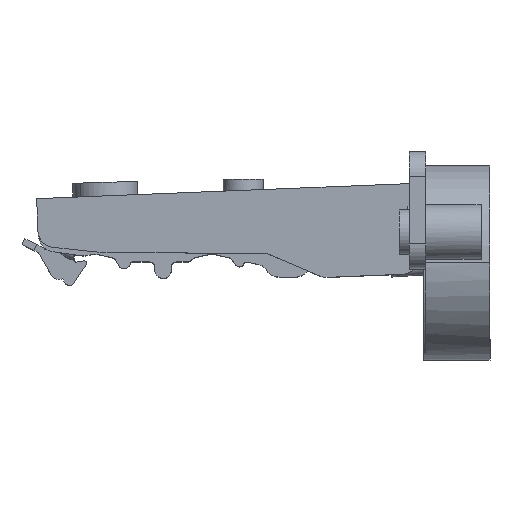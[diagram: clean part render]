
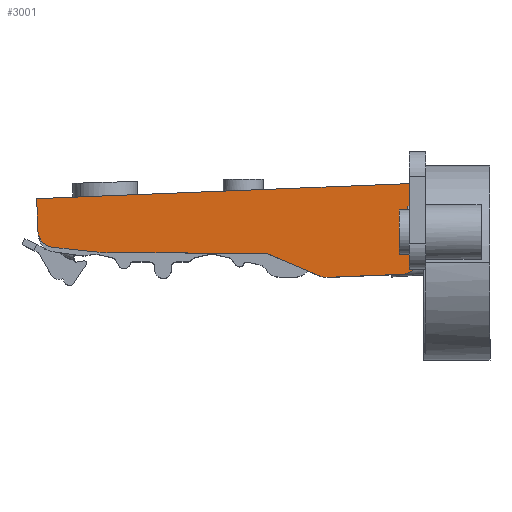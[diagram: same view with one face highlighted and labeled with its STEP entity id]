
A CAD part, top view. The second image highlights one B-rep face of the part: STEP entity #3001.
In plain terms, the highlighted planar face has unit normal (0, 0, 1).
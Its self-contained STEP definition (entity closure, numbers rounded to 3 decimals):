
#27 = CARTESIAN_POINT ( 'NONE',  ( -58.444, 9.997, 8.5 ) ) ;
#222 = VERTEX_POINT ( 'NONE', #422 ) ;
#241 = CIRCLE ( 'NONE', #431, 30. ) ;
#422 = CARTESIAN_POINT ( 'NONE',  ( -51.347, 6.21, 8.5 ) ) ;
#431 = AXIS2_PLACEMENT_3D ( 'NONE', #4415, #10731, #7881 ) ;
#697 = DIRECTION ( 'NONE',  ( -0.999, -0.04, 0. ) ) ;
#790 = EDGE_CURVE ( 'NONE', #7150, #1047, #6448, .T. ) ;
#829 = ORIENTED_EDGE ( 'NONE', *, *, #4334, .T. ) ;
#1047 = VERTEX_POINT ( 'NONE', #7990 ) ;
#1051 = DIRECTION ( 'NONE',  ( 0., 0., 1. ) ) ;
#1096 = CIRCLE ( 'NONE', #5874, 3.5 ) ;
#1225 = ORIENTED_EDGE ( 'NONE', *, *, #1889, .T. ) ;
#1250 = CARTESIAN_POINT ( 'NONE',  ( -20.265, 5.864, 8.5 ) ) ;
#1292 = DIRECTION ( 'NONE',  ( 1., 0., 0. ) ) ;
#1453 = LINE ( 'NONE', #8460, #11783 ) ;
#1484 = CARTESIAN_POINT ( 'NONE',  ( 3.733, 2.169, 8.5 ) ) ;
#1806 = EDGE_CURVE ( 'NONE', #5736, #9328, #1096, .T. ) ;
#1889 = EDGE_CURVE ( 'NONE', #2691, #3598, #3026, .T. ) ;
#1944 = EDGE_CURVE ( 'NONE', #3598, #222, #4849, .T. ) ;
#2073 = DIRECTION ( 'NONE',  ( 0.994, -0.108, 0. ) ) ;
#2083 = VERTEX_POINT ( 'NONE', #4127 ) ;
#2280 = ORIENTED_EDGE ( 'NONE', *, *, #11162, .T. ) ;
#2312 = CARTESIAN_POINT ( 'NONE',  ( -9.756, 4.626, 8.5 ) ) ;
#2320 = DIRECTION ( 'NONE',  ( 1., 0., 0. ) ) ;
#2325 = ORIENTED_EDGE ( 'NONE', *, *, #790, .F. ) ;
#2361 = DIRECTION ( 'NONE',  ( 1., 0., 0. ) ) ;
#2691 = VERTEX_POINT ( 'NONE', #9434 ) ;
#2999 = FACE_OUTER_BOUND ( 'NONE', #6856, .T. ) ;
#3001 = ADVANCED_FACE ( 'NONE', ( #2999 ), #9312, .T. ) ;
#3026 = CIRCLE ( 'NONE', #8732, 3. ) ;
#3070 = CARTESIAN_POINT ( 'NONE',  ( 5.993, 3.12, 8.5 ) ) ;
#3114 = EDGE_CURVE ( 'NONE', #3945, #2083, #10243, .T. ) ;
#3188 = LINE ( 'NONE', #8729, #10168 ) ;
#3598 = VERTEX_POINT ( 'NONE', #9764 ) ;
#3714 = LINE ( 'NONE', #9177, #5797 ) ;
#3823 = CARTESIAN_POINT ( 'NONE',  ( 5.081, 18.426, 8.5 ) ) ;
#3945 = VERTEX_POINT ( 'NONE', #6344 ) ;
#3958 = CARTESIAN_POINT ( 'NONE',  ( -58.768, 7.014, 8.5 ) ) ;
#4127 = CARTESIAN_POINT ( 'NONE',  ( -9.635, 1.629, 8.5 ) ) ;
#4155 = ORIENTED_EDGE ( 'NONE', *, *, #7481, .T. ) ;
#4334 = EDGE_CURVE ( 'NONE', #222, #9192, #241, .T. ) ;
#4409 = ORIENTED_EDGE ( 'NONE', *, *, #1806, .T. ) ;
#4415 = CARTESIAN_POINT ( 'NONE',  ( -48.113, 36.035, 8.5 ) ) ;
#4837 = ORIENTED_EDGE ( 'NONE', *, *, #10461, .T. ) ;
#4849 = LINE ( 'NONE', #3958, #9099 ) ;
#4866 = DIRECTION ( 'NONE',  ( 0.919, -0.394, 0. ) ) ;
#4910 = CARTESIAN_POINT ( 'NONE',  ( -61.678, 15.73, 8.5 ) ) ;
#5108 = AXIS2_PLACEMENT_3D ( 'NONE', #2312, #6876, #2361 ) ;
#5207 = CARTESIAN_POINT ( 'NONE',  ( 6.946, 18.502, 8.5 ) ) ;
#5595 = CARTESIAN_POINT ( 'NONE',  ( 5.081, 9.997, 8.5 ) ) ;
#5736 = VERTEX_POINT ( 'NONE', #1484 ) ;
#5797 = VECTOR ( 'NONE', #6452, 1000. ) ;
#5812 = LINE ( 'NONE', #1250, #7709 ) ;
#5874 = AXIS2_PLACEMENT_3D ( 'NONE', #6405, #1051, #9982 ) ;
#5990 = VECTOR ( 'NONE', #697, 1000. ) ;
#6223 = DIRECTION ( 'NONE',  ( 0., 0., -1. ) ) ;
#6317 = ORIENTED_EDGE ( 'NONE', *, *, #8652, .T. ) ;
#6344 = CARTESIAN_POINT ( 'NONE',  ( -10.937, 1.869, 8.5 ) ) ;
#6405 = CARTESIAN_POINT ( 'NONE',  ( 3.591, 5.666, 8.5 ) ) ;
#6448 = LINE ( 'NONE', #5595, #7675 ) ;
#6452 = DIRECTION ( 'NONE',  ( 0.04, -0.999, 0. ) ) ;
#6457 = DIRECTION ( 'NONE',  ( 0., 0., 1. ) ) ;
#6825 = VECTOR ( 'NONE', #7179, 1000. ) ;
#6830 = ORIENTED_EDGE ( 'NONE', *, *, #10127, .T. ) ;
#6856 = EDGE_LOOP ( 'NONE', ( #10089, #2325, #6317, #10086, #1225, #10024, #829, #6830, #4837, #4155, #11677, #2280, #4409 ) ) ;
#6876 = DIRECTION ( 'NONE',  ( 0., 0., 1. ) ) ;
#6899 = VERTEX_POINT ( 'NONE', #9983 ) ;
#7000 = CARTESIAN_POINT ( 'NONE',  ( -20.659, 4.945, 8.5 ) ) ;
#7150 = VERTEX_POINT ( 'NONE', #3823 ) ;
#7179 = DIRECTION ( 'NONE',  ( 1., -0.003, 0. ) ) ;
#7405 = DIRECTION ( 'NONE',  ( 1., 0., 0. ) ) ;
#7481 = EDGE_CURVE ( 'NONE', #10003, #3945, #5812, .T. ) ;
#7675 = VECTOR ( 'NONE', #10084, 1000. ) ;
#7709 = VECTOR ( 'NONE', #4866, 1000. ) ;
#7881 = DIRECTION ( 'NONE',  ( 1., 0., 0. ) ) ;
#7959 = LINE ( 'NONE', #9986, #6825 ) ;
#7990 = CARTESIAN_POINT ( 'NONE',  ( 5.081, 3.12, 8.5 ) ) ;
#8349 = CIRCLE ( 'NONE', #11595, 1. ) ;
#8460 = CARTESIAN_POINT ( 'NONE',  ( -9.635, 1.629, 8.5 ) ) ;
#8462 = EDGE_CURVE ( 'NONE', #1047, #9328, #3188, .T. ) ;
#8604 = CARTESIAN_POINT ( 'NONE',  ( -58.444, 9.997, 8.5 ) ) ;
#8622 = CARTESIAN_POINT ( 'NONE',  ( -20.265, 5.864, 8.5 ) ) ;
#8652 = EDGE_CURVE ( 'NONE', #7150, #10365, #10916, .T. ) ;
#8662 = DIRECTION ( 'NONE',  ( 0., 0., 1. ) ) ;
#8718 = EDGE_CURVE ( 'NONE', #10365, #2691, #3714, .T. ) ;
#8729 = CARTESIAN_POINT ( 'NONE',  ( -58.444, 3.12, 8.5 ) ) ;
#8732 = AXIS2_PLACEMENT_3D ( 'NONE', #8604, #8662, #1292 ) ;
#8913 = CARTESIAN_POINT ( 'NONE',  ( -48.211, 6.035, 8.5 ) ) ;
#9099 = VECTOR ( 'NONE', #2073, 1000. ) ;
#9177 = CARTESIAN_POINT ( 'NONE',  ( -61.642, 14.83, 8.5 ) ) ;
#9192 = VERTEX_POINT ( 'NONE', #8913 ) ;
#9312 = PLANE ( 'NONE',  #11777 ) ;
#9328 = VERTEX_POINT ( 'NONE', #3070 ) ;
#9434 = CARTESIAN_POINT ( 'NONE',  ( -61.442, 9.875, 8.5 ) ) ;
#9764 = CARTESIAN_POINT ( 'NONE',  ( -58.768, 7.014, 8.5 ) ) ;
#9982 = DIRECTION ( 'NONE',  ( 1., 0., 0. ) ) ;
#9983 = CARTESIAN_POINT ( 'NONE',  ( -20.656, 5.945, 8.5 ) ) ;
#9986 = CARTESIAN_POINT ( 'NONE',  ( -48.211, 6.035, 8.5 ) ) ;
#10003 = VERTEX_POINT ( 'NONE', #8622 ) ;
#10024 = ORIENTED_EDGE ( 'NONE', *, *, #1944, .T. ) ;
#10084 = DIRECTION ( 'NONE',  ( 0., -1., 0. ) ) ;
#10086 = ORIENTED_EDGE ( 'NONE', *, *, #8718, .T. ) ;
#10089 = ORIENTED_EDGE ( 'NONE', *, *, #8462, .F. ) ;
#10127 = EDGE_CURVE ( 'NONE', #9192, #6899, #7959, .T. ) ;
#10168 = VECTOR ( 'NONE', #2320, 1000. ) ;
#10243 = CIRCLE ( 'NONE', #5108, 3. ) ;
#10364 = DIRECTION ( 'NONE',  ( 0.999, 0.04, 0. ) ) ;
#10365 = VERTEX_POINT ( 'NONE', #4910 ) ;
#10461 = EDGE_CURVE ( 'NONE', #6899, #10003, #8349, .T. ) ;
#10617 = DIRECTION ( 'NONE',  ( 1., 0., 0. ) ) ;
#10731 = DIRECTION ( 'NONE',  ( 0., 0., 1. ) ) ;
#10916 = LINE ( 'NONE', #5207, #5990 ) ;
#11162 = EDGE_CURVE ( 'NONE', #2083, #5736, #1453, .T. ) ;
#11595 = AXIS2_PLACEMENT_3D ( 'NONE', #7000, #6223, #10617 ) ;
#11677 = ORIENTED_EDGE ( 'NONE', *, *, #3114, .T. ) ;
#11777 = AXIS2_PLACEMENT_3D ( 'NONE', #27, #6457, #7405 ) ;
#11783 = VECTOR ( 'NONE', #10364, 1000. ) ;
